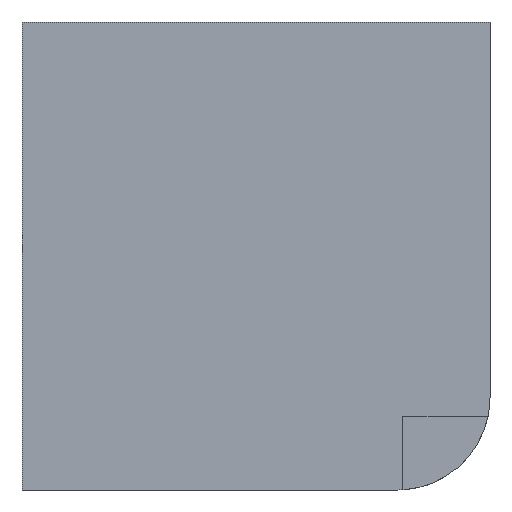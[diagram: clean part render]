
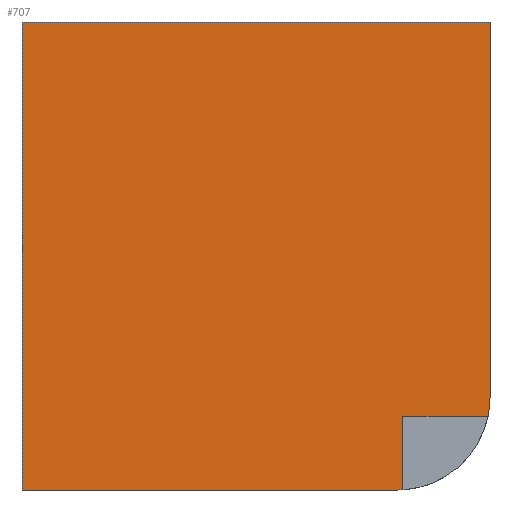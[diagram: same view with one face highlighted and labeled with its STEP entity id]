
A CAD part, left-side view. The second image highlights one B-rep face of the part: STEP entity #707.
In plain terms, the highlighted planar face has unit normal (-1, 0, 0).
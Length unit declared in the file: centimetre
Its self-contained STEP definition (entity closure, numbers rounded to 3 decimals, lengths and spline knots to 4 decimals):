
#17 = EDGE_CURVE ( 'NONE', #664, #588, #92, .T. ) ;
#18 = ORIENTED_EDGE ( 'NONE', *, *, #350, .T. ) ;
#19 = VECTOR ( 'NONE', #271, 100. ) ;
#27 = DIRECTION ( 'NONE',  ( -1., 0., 0. ) ) ;
#32 = LINE ( 'NONE', #232, #230 ) ;
#40 = DIRECTION ( 'NONE',  ( 0., 0., -1. ) ) ;
#92 = LINE ( 'NONE', #755, #303 ) ;
#93 = DIRECTION ( 'NONE',  ( 0., -1., 0. ) ) ;
#106 = VECTOR ( 'NONE', #492, 100. ) ;
#163 = DIRECTION ( 'NONE',  ( 0., 0., -1. ) ) ;
#177 = ORIENTED_EDGE ( 'NONE', *, *, #752, .F. ) ;
#188 = ORIENTED_EDGE ( 'NONE', *, *, #378, .F. ) ;
#202 = VECTOR ( 'NONE', #93, 100. ) ;
#214 = FACE_OUTER_BOUND ( 'NONE', #797, .T. ) ;
#219 = PLANE ( 'NONE',  #341 ) ;
#230 = VECTOR ( 'NONE', #757, 100. ) ;
#232 = CARTESIAN_POINT ( 'NONE',  ( 0., 0., 158.0842 ) ) ;
#236 = EDGE_CURVE ( 'NONE', #790, #456, #849, .T. ) ;
#257 = VERTEX_POINT ( 'NONE', #290 ) ;
#271 = DIRECTION ( 'NONE',  ( 0., -1., 0. ) ) ;
#278 = LINE ( 'NONE', #614, #693 ) ;
#280 = CARTESIAN_POINT ( 'NONE',  ( 0., 1000., 1000. ) ) ;
#290 = CARTESIAN_POINT ( 'NONE',  ( 0., 4.057, 158.0842 ) ) ;
#296 = LINE ( 'NONE', #562, #202 ) ;
#303 = VECTOR ( 'NONE', #163, 100. ) ;
#311 = EDGE_CURVE ( 'NONE', #257, #588, #625, .T. ) ;
#338 = CARTESIAN_POINT ( 'NONE',  ( 0., 1000., 0. ) ) ;
#341 = AXIS2_PLACEMENT_3D ( 'NONE', #738, #469, #394 ) ;
#350 = EDGE_CURVE ( 'NONE', #648, #694, #698, .T. ) ;
#351 = LINE ( 'NONE', #280, #19 ) ;
#353 = ORIENTED_EDGE ( 'NONE', *, *, #311, .T. ) ;
#356 = CARTESIAN_POINT ( 'NONE',  ( 0., 197.9558, 197.9558 ) ) ;
#378 = EDGE_CURVE ( 'NONE', #257, #417, #32, .T. ) ;
#394 = DIRECTION ( 'NONE',  ( 0., 0., -1. ) ) ;
#398 = ORIENTED_EDGE ( 'NONE', *, *, #17, .F. ) ;
#417 = VERTEX_POINT ( 'NONE', #497 ) ;
#438 = DIRECTION ( 'NONE',  ( -1., 0., 0. ) ) ;
#449 = CARTESIAN_POINT ( 'NONE',  ( 0., 0., 1000. ) ) ;
#456 = VERTEX_POINT ( 'NONE', #756 ) ;
#469 = DIRECTION ( 'NONE',  ( 1., 0., 0. ) ) ;
#492 = DIRECTION ( 'NONE',  ( 0., 0., -1. ) ) ;
#497 = CARTESIAN_POINT ( 'NONE',  ( 0., 185.9828, 158.0842 ) ) ;
#551 = AXIS2_PLACEMENT_3D ( 'NONE', #584, #438, #40 ) ;
#562 = CARTESIAN_POINT ( 'NONE',  ( 0., 1000., 0. ) ) ;
#584 = CARTESIAN_POINT ( 'NONE',  ( 0., 197.9558, 197.9558 ) ) ;
#588 = VERTEX_POINT ( 'NONE', #854 ) ;
#614 = CARTESIAN_POINT ( 'NONE',  ( 0., 185.9828, 158.0842 ) ) ;
#616 = ORIENTED_EDGE ( 'NONE', *, *, #806, .T. ) ;
#625 = CIRCLE ( 'NONE', #551, 197.9558 ) ;
#648 = VERTEX_POINT ( 'NONE', #727 ) ;
#664 = VERTEX_POINT ( 'NONE', #449 ) ;
#670 = EDGE_CURVE ( 'NONE', #417, #456, #278, .T. ) ;
#682 = CARTESIAN_POINT ( 'NONE',  ( 0., 197.9558, 0. ) ) ;
#685 = DIRECTION ( 'NONE',  ( 0., 0., -1. ) ) ;
#693 = VECTOR ( 'NONE', #685, 100. ) ;
#694 = VERTEX_POINT ( 'NONE', #338 ) ;
#698 = LINE ( 'NONE', #820, #106 ) ;
#703 = DIRECTION ( 'NONE',  ( 0., 0., -1. ) ) ;
#707 = ADVANCED_FACE ( 'NONE', ( #214 ), #219, .F. ) ;
#727 = CARTESIAN_POINT ( 'NONE',  ( 0., 1000., 1000. ) ) ;
#738 = CARTESIAN_POINT ( 'NONE',  ( 0., 1000., 1000. ) ) ;
#752 = EDGE_CURVE ( 'NONE', #648, #664, #351, .T. ) ;
#755 = CARTESIAN_POINT ( 'NONE',  ( 0., 0., 1000. ) ) ;
#756 = CARTESIAN_POINT ( 'NONE',  ( 0., 185.9828, 0.3624 ) ) ;
#757 = DIRECTION ( 'NONE',  ( 0., 1., 0. ) ) ;
#781 = AXIS2_PLACEMENT_3D ( 'NONE', #356, #27, #703 ) ;
#790 = VERTEX_POINT ( 'NONE', #682 ) ;
#792 = ORIENTED_EDGE ( 'NONE', *, *, #236, .T. ) ;
#797 = EDGE_LOOP ( 'NONE', ( #792, #846, #188, #353, #398, #177, #18, #616 ) ) ;
#806 = EDGE_CURVE ( 'NONE', #694, #790, #296, .T. ) ;
#820 = CARTESIAN_POINT ( 'NONE',  ( 0., 1000., 1000. ) ) ;
#846 = ORIENTED_EDGE ( 'NONE', *, *, #670, .F. ) ;
#849 = CIRCLE ( 'NONE', #781, 197.9558 ) ;
#854 = CARTESIAN_POINT ( 'NONE',  ( 0., 0., 197.9558 ) ) ;
